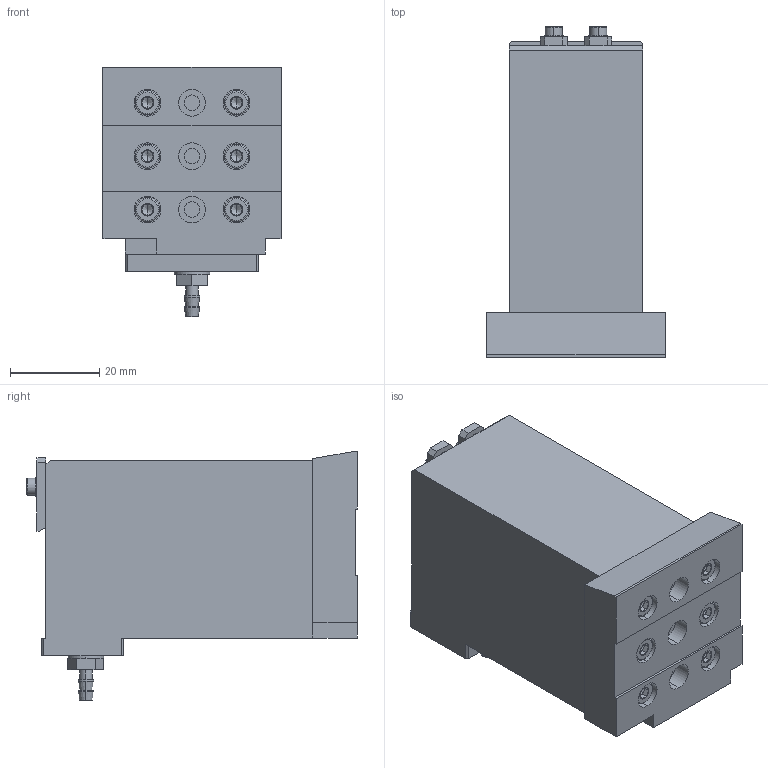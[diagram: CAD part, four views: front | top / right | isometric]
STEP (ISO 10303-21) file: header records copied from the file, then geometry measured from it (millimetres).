
FILE_DESCRIPTION (( 'STEP AP203' ), '1' );
FILE_NAME ('E400-30.STEP', '2023-03-22T02:37:18', ( '' ), ( '' ), 'SwSTEP 2.0', 'SolidWorks 2017', '' );
FILE_SCHEMA (( 'CONFIG_CONTROL_DESIGN' ));
Length unit declared in the file: millimetre
Products named in the file (15): E400-30-prt8; E400-30-prt0; E400-30; E400-30-prt2; E400-30-prt7; E400-30-prt12; E400-30-prt13; E400-30-prt5; E400-30-prt11; E400-30-prt6; E400-30-prt9; E400-30-prt3; E400-30-prt10; E400-30-prt4; E400-30-prt1
Assembly tree (14 placements, depth 2):
  E400-30
    E400-30-prt0
    E400-30-prt1
    E400-30-prt2
    E400-30-prt3
    E400-30-prt4
    E400-30-prt5
    E400-30-prt6
    E400-30-prt7
    E400-30-prt8
    E400-30-prt9
    E400-30-prt10
    E400-30-prt11
    E400-30-prt12
    E400-30-prt13
Bounding box: 40 x 74.3 x 56.1 mm (x, y, z)
Volume: 87024.3 mm3; surface area: 20575.2 mm2
Topology: 14 solids, 35 shells, 1104 faces, 2305 edges, 1267 vertices
Faces by surface type: plane 430, cylinder 276, bspline 248, torus 104, cone 46
Entity records: 31358 total; most frequent: CARTESIAN_POINT 7283, DIRECTION 4895, ORIENTED_EDGE 4450, EDGE_CURVE 2225, AXIS2_PLACEMENT_3D 1949, VERTEX_POINT 1267, EDGE_LOOP 1230, FACE_OUTER_BOUND 1104
